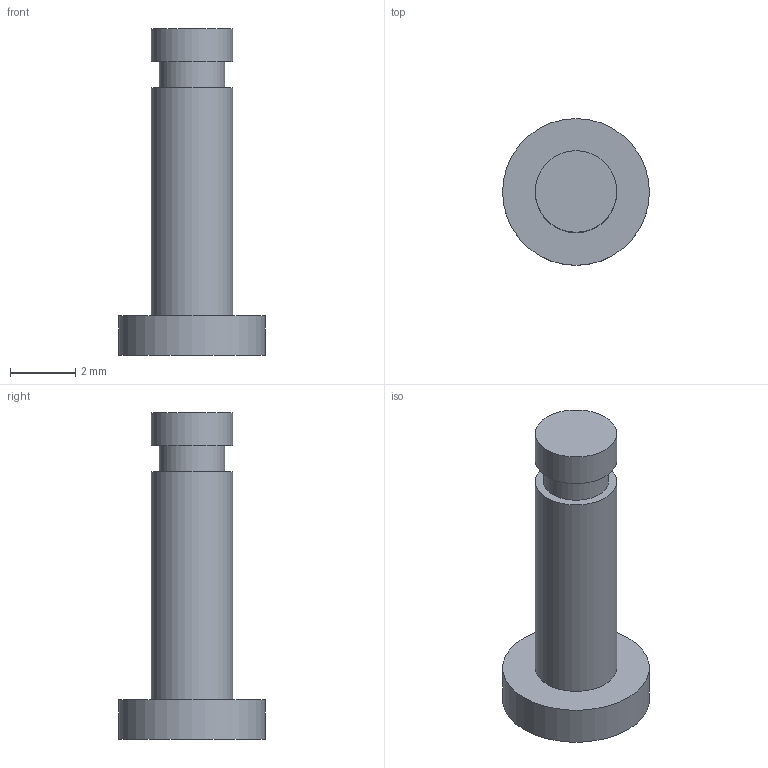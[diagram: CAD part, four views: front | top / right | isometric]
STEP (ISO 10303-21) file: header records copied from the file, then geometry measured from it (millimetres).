
FILE_DESCRIPTION(('Open CASCADE Model'),'2;1');
FILE_NAME('SCZ-PIN25-L10','2026-11-15T22:39:12',('Author'),( 'Open CASCADE'),'Open CASCADE STEP processor 8.0','build123d', 'Unknown');
FILE_SCHEMA(('AUTOMOTIVE_DESIGN { 1 0 10303 214 1 1 1 1 }'));
Length unit declared in the file: millimetre
Products named in the file (1): SCZ-PIN25-L10
Bounding box: 4.5 x 4.5 x 10 mm (x, y, z)
Volume: 60.9 mm3; surface area: 120.2 mm2
Topology: 1 solids, 1 shells, 9 faces, 12 edges, 8 vertices
Faces by surface type: plane 5, cylinder 4
Full cylindrical faces by diameter (mm): 2 x1, 2.5 x2, 4.5 x1
Entity records: 360 total; most frequent: DIRECTION 64, CARTESIAN_POINT 54, ORIENTED_EDGE 24, PCURVE 24, DEFINITIONAL_REPRESENTATION 24, LINE 20, VECTOR 20, AXIS2_PLACEMENT_3D 18
